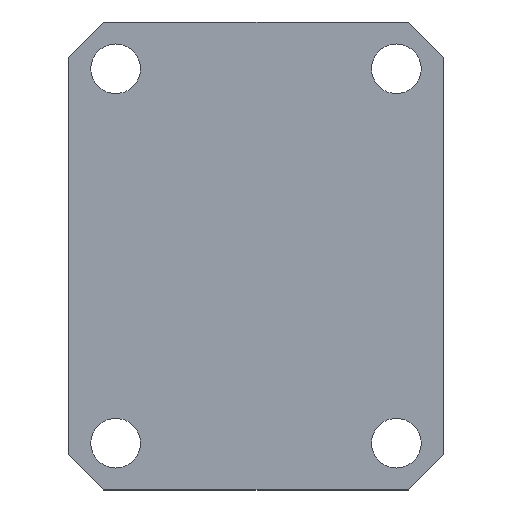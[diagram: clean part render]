
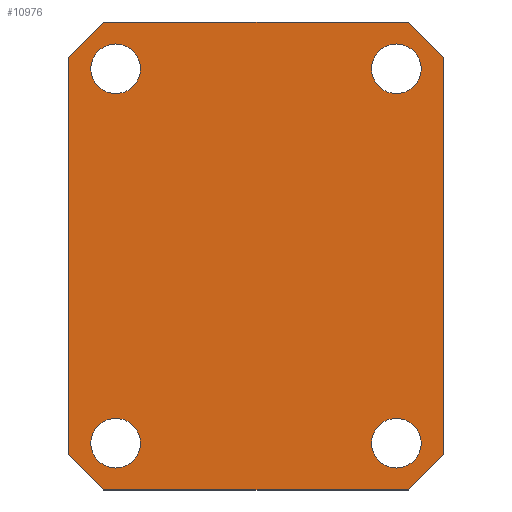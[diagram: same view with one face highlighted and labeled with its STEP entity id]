
A CAD part, front view. The second image highlights one B-rep face of the part: STEP entity #10976.
In plain terms, the highlighted planar face has unit normal (0, -1, 0).
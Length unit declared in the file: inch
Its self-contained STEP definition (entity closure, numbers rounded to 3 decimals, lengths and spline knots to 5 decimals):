
#135 = AXIS2_PLACEMENT_3D ( 'NONE', #6209, #6208, #6207 ) ;
#136 = AXIS2_PLACEMENT_3D ( 'NONE', #6206, #6205, #6204 ) ;
#137 = AXIS2_PLACEMENT_3D ( 'NONE', #6203, #6202, #6201 ) ;
#138 = AXIS2_PLACEMENT_3D ( 'NONE', #6199, #6198, #6197 ) ;
#181 = AXIS2_PLACEMENT_3D ( 'NONE', #13378, #13377, #13376 ) ;
#196 = AXIS2_PLACEMENT_3D ( 'NONE', #13120, #13119, #13118 ) ;
#198 = AXIS2_PLACEMENT_3D ( 'NONE', #13110, #13109, #13108 ) ;
#1120 = EDGE_CURVE ( 'NONE', #12768, #12764, #7611, .T. ) ;
#1124 = EDGE_CURVE ( 'NONE', #12762, #12296, #7617, .T. ) ;
#2129 = CARTESIAN_POINT ( 'NONE',  ( -0.75, 0., 0.8675 ) ) ;
#2131 = CARTESIAN_POINT ( 'NONE',  ( -0.75, 0., -0.8675 ) ) ;
#2531 = CARTESIAN_POINT ( 'NONE',  ( 1., 0., 1.062 ) ) ;
#2533 = CARTESIAN_POINT ( 'NONE',  ( 1., 0., -1.062 ) ) ;
#2548 = CARTESIAN_POINT ( 'NONE',  ( -0.812, 0., -1.25 ) ) ;
#2554 = CARTESIAN_POINT ( 'NONE',  ( 0.812, 0., -1.25 ) ) ;
#2572 = CARTESIAN_POINT ( 'NONE',  ( -1., 0., -1.062 ) ) ;
#2573 = CARTESIAN_POINT ( 'NONE',  ( -1., 0., 1.062 ) ) ;
#2581 = CARTESIAN_POINT ( 'NONE',  ( 0.812, 0., 1.25 ) ) ;
#2585 = CARTESIAN_POINT ( 'NONE',  ( -0.812, 0., 1.25 ) ) ;
#2588 = CARTESIAN_POINT ( 'NONE',  ( 0.75, 0., 1.1325 ) ) ;
#2597 = CARTESIAN_POINT ( 'NONE',  ( -0.75, 0., -1.1325 ) ) ;
#2599 = CARTESIAN_POINT ( 'NONE',  ( 0.75, 0., -0.8675 ) ) ;
#2603 = CARTESIAN_POINT ( 'NONE',  ( 0.75, 0., -1.1325 ) ) ;
#3235 = EDGE_CURVE ( 'NONE', #12696, #12698, #12053, .T. ) ;
#3245 = EDGE_CURVE ( 'NONE', #12719, #12713, #12072, .T. ) ;
#4312 = LINE ( 'NONE', #6212, #4313 ) ;
#4313 = VECTOR ( 'NONE', #6211, 39.37008 ) ;
#4314 = CIRCLE ( 'NONE', #135, 0.1325 ) ;
#4315 = CIRCLE ( 'NONE', #136, 0.1325 ) ;
#4316 = CIRCLE ( 'NONE', #137, 0.1325 ) ;
#4317 = LINE ( 'NONE', #6196, #4319 ) ;
#4318 = CIRCLE ( 'NONE', #138, 0.1325 ) ;
#4319 = VECTOR ( 'NONE', #6195, 39.37008 ) ;
#4320 = LINE ( 'NONE', #6194, #4321 ) ;
#4321 = VECTOR ( 'NONE', #6193, 39.37008 ) ;
#4322 = LINE ( 'NONE', #6192, #4323 ) ;
#4323 = VECTOR ( 'NONE', #6191, 39.37008 ) ;
#4324 = LINE ( 'NONE', #6188, #4325 ) ;
#4325 = VECTOR ( 'NONE', #6187, 39.37008 ) ;
#4460 = LINE ( 'NONE', #5865, #4461 ) ;
#4461 = VECTOR ( 'NONE', #5864, 39.37008 ) ;
#4839 = FACE_BOUND ( 'NONE', #14401, .T. ) ;
#4840 = FACE_BOUND ( 'NONE', #14402, .T. ) ;
#4841 = FACE_BOUND ( 'NONE', #14403, .T. ) ;
#4842 = FACE_BOUND ( 'NONE', #14404, .T. ) ;
#4843 = FACE_OUTER_BOUND ( 'NONE', #14405, .T. ) ;
#4974 = CIRCLE ( 'NONE', #196, 0.1325 ) ;
#4980 = CIRCLE ( 'NONE', #198, 0.1325 ) ;
#5864 = DIRECTION ( 'NONE',  ( 0., 0., 1. ) ) ;
#5865 = CARTESIAN_POINT ( 'NONE',  ( -1., 0., 1.25 ) ) ;
#6187 = DIRECTION ( 'NONE',  ( -0.707, 0., -0.707 ) ) ;
#6188 = CARTESIAN_POINT ( 'NONE',  ( -1.156, 0., 0.906 ) ) ;
#6191 = DIRECTION ( 'NONE',  ( -0.707, 0., 0.707 ) ) ;
#6192 = CARTESIAN_POINT ( 'NONE',  ( 2.156, 0., -0.094 ) ) ;
#6193 = DIRECTION ( 'NONE',  ( 0.707, 0., 0.707 ) ) ;
#6194 = CARTESIAN_POINT ( 'NONE',  ( 0.906, 0., -1.156 ) ) ;
#6195 = DIRECTION ( 'NONE',  ( 0.707, 0., -0.707 ) ) ;
#6196 = CARTESIAN_POINT ( 'NONE',  ( 0.094, 0., -2.156 ) ) ;
#6197 = DIRECTION ( 'NONE',  ( 0., 0., -1. ) ) ;
#6198 = DIRECTION ( 'NONE',  ( 0., 1., 0. ) ) ;
#6199 = CARTESIAN_POINT ( 'NONE',  ( -0.75, 0., 1. ) ) ;
#6201 = DIRECTION ( 'NONE',  ( 0., 0., -1. ) ) ;
#6202 = DIRECTION ( 'NONE',  ( 0., 1., 0. ) ) ;
#6203 = CARTESIAN_POINT ( 'NONE',  ( 0.75, 0., 1. ) ) ;
#6204 = DIRECTION ( 'NONE',  ( 0., 0., -1. ) ) ;
#6205 = DIRECTION ( 'NONE',  ( 0., 1., 0. ) ) ;
#6206 = CARTESIAN_POINT ( 'NONE',  ( -0.75, 0., -1. ) ) ;
#6207 = DIRECTION ( 'NONE',  ( 0., 0., -1. ) ) ;
#6208 = DIRECTION ( 'NONE',  ( 0., 1., 0. ) ) ;
#6209 = CARTESIAN_POINT ( 'NONE',  ( 0.75, 0., -1. ) ) ;
#6211 = DIRECTION ( 'NONE',  ( 1., 0., 0. ) ) ;
#6212 = CARTESIAN_POINT ( 'NONE',  ( -1., 0., 1.25 ) ) ;
#6504 = DIRECTION ( 'NONE',  ( -1., 0., 0. ) ) ;
#6505 = CARTESIAN_POINT ( 'NONE',  ( -1., 0., -1.25 ) ) ;
#6532 = DIRECTION ( 'NONE',  ( 0., 0., -1. ) ) ;
#6533 = CARTESIAN_POINT ( 'NONE',  ( 1., 0., 1.25 ) ) ;
#7260 = EDGE_CURVE ( 'NONE', #12750, #12746, #4312, .T. ) ;
#7261 = EDGE_CURVE ( 'NONE', #12764, #12768, #4314, .T. ) ;
#7262 = EDGE_CURVE ( 'NONE', #12296, #12762, #4315, .T. ) ;
#7263 = EDGE_CURVE ( 'NONE', #12753, #21617, #4316, .T. ) ;
#7264 = EDGE_CURVE ( 'NONE', #21516, #12294, #4318, .T. ) ;
#7265 = EDGE_CURVE ( 'NONE', #12737, #12713, #4317, .T. ) ;
#7266 = EDGE_CURVE ( 'NONE', #12719, #12698, #4320, .T. ) ;
#7267 = EDGE_CURVE ( 'NONE', #12696, #12746, #4322, .T. ) ;
#7268 = EDGE_CURVE ( 'NONE', #12750, #12738, #4324, .T. ) ;
#7352 = EDGE_CURVE ( 'NONE', #12737, #12738, #4460, .T. ) ;
#7611 = CIRCLE ( 'NONE', #8427, 0.1325 ) ;
#7617 = CIRCLE ( 'NONE', #8429, 0.1325 ) ;
#7872 = ORIENTED_EDGE ( 'NONE', *, *, #7261, .T. ) ;
#7873 = ORIENTED_EDGE ( 'NONE', *, *, #1120, .T. ) ;
#7874 = ORIENTED_EDGE ( 'NONE', *, *, #7262, .T. ) ;
#7875 = ORIENTED_EDGE ( 'NONE', *, *, #1124, .T. ) ;
#7876 = ORIENTED_EDGE ( 'NONE', *, *, #7263, .T. ) ;
#7877 = ORIENTED_EDGE ( 'NONE', *, *, #11408, .T. ) ;
#7878 = ORIENTED_EDGE ( 'NONE', *, *, #7264, .T. ) ;
#7879 = ORIENTED_EDGE ( 'NONE', *, *, #11412, .T. ) ;
#7880 = ORIENTED_EDGE ( 'NONE', *, *, #7352, .F. ) ;
#7881 = ORIENTED_EDGE ( 'NONE', *, *, #7265, .T. ) ;
#7882 = ORIENTED_EDGE ( 'NONE', *, *, #3245, .F. ) ;
#7883 = ORIENTED_EDGE ( 'NONE', *, *, #7266, .T. ) ;
#7884 = ORIENTED_EDGE ( 'NONE', *, *, #3235, .F. ) ;
#7885 = ORIENTED_EDGE ( 'NONE', *, *, #7267, .T. ) ;
#7886 = ORIENTED_EDGE ( 'NONE', *, *, #7260, .F. ) ;
#7887 = ORIENTED_EDGE ( 'NONE', *, *, #7268, .T. ) ;
#8427 = AXIS2_PLACEMENT_3D ( 'NONE', #17075, #17073, #17072 ) ;
#8429 = AXIS2_PLACEMENT_3D ( 'NONE', #17061, #17060, #17059 ) ;
#10976 = ADVANCED_FACE ( 'NONE', ( #4839, #4840, #4841, #4842, #4843 ), #13380, .T. ) ;
#11408 = EDGE_CURVE ( 'NONE', #21617, #12753, #4974, .T. ) ;
#11412 = EDGE_CURVE ( 'NONE', #12294, #21516, #4980, .T. ) ;
#11442 = CARTESIAN_POINT ( 'NONE',  ( -0.75, 0., 1.1325 ) ) ;
#11453 = CARTESIAN_POINT ( 'NONE',  ( 0.75, 0., 0.8675 ) ) ;
#12053 = LINE ( 'NONE', #6533, #12054 ) ;
#12054 = VECTOR ( 'NONE', #6532, 39.37008 ) ;
#12072 = LINE ( 'NONE', #6505, #12073 ) ;
#12073 = VECTOR ( 'NONE', #6504, 39.37008 ) ;
#12294 = VERTEX_POINT ( 'NONE', #2129 ) ;
#12296 = VERTEX_POINT ( 'NONE', #2131 ) ;
#12696 = VERTEX_POINT ( 'NONE', #2531 ) ;
#12698 = VERTEX_POINT ( 'NONE', #2533 ) ;
#12713 = VERTEX_POINT ( 'NONE', #2548 ) ;
#12719 = VERTEX_POINT ( 'NONE', #2554 ) ;
#12737 = VERTEX_POINT ( 'NONE', #2572 ) ;
#12738 = VERTEX_POINT ( 'NONE', #2573 ) ;
#12746 = VERTEX_POINT ( 'NONE', #2581 ) ;
#12750 = VERTEX_POINT ( 'NONE', #2585 ) ;
#12753 = VERTEX_POINT ( 'NONE', #2588 ) ;
#12762 = VERTEX_POINT ( 'NONE', #2597 ) ;
#12764 = VERTEX_POINT ( 'NONE', #2599 ) ;
#12768 = VERTEX_POINT ( 'NONE', #2603 ) ;
#13108 = DIRECTION ( 'NONE',  ( 0., 0., -1. ) ) ;
#13109 = DIRECTION ( 'NONE',  ( 0., 1., 0. ) ) ;
#13110 = CARTESIAN_POINT ( 'NONE',  ( -0.75, 0., 1. ) ) ;
#13118 = DIRECTION ( 'NONE',  ( 0., 0., -1. ) ) ;
#13119 = DIRECTION ( 'NONE',  ( 0., 1., 0. ) ) ;
#13120 = CARTESIAN_POINT ( 'NONE',  ( 0.75, 0., 1. ) ) ;
#13376 = DIRECTION ( 'NONE',  ( 0., 0., -1. ) ) ;
#13377 = DIRECTION ( 'NONE',  ( 0., -1., 0. ) ) ;
#13378 = CARTESIAN_POINT ( 'NONE',  ( 1., 0., -1.25 ) ) ;
#13380 = PLANE ( 'NONE',  #181 ) ;
#14401 = EDGE_LOOP ( 'NONE', ( #7872, #7873 ) ) ;
#14402 = EDGE_LOOP ( 'NONE', ( #7874, #7875 ) ) ;
#14403 = EDGE_LOOP ( 'NONE', ( #7876, #7877 ) ) ;
#14404 = EDGE_LOOP ( 'NONE', ( #7878, #7879 ) ) ;
#14405 = EDGE_LOOP ( 'NONE', ( #7880, #7881, #7882, #7883, #7884, #7885, #7886, #7887 ) ) ;
#17059 = DIRECTION ( 'NONE',  ( 0., 0., -1. ) ) ;
#17060 = DIRECTION ( 'NONE',  ( 0., 1., 0. ) ) ;
#17061 = CARTESIAN_POINT ( 'NONE',  ( -0.75, 0., -1. ) ) ;
#17072 = DIRECTION ( 'NONE',  ( 0., 0., -1. ) ) ;
#17073 = DIRECTION ( 'NONE',  ( 0., 1., 0. ) ) ;
#17075 = CARTESIAN_POINT ( 'NONE',  ( 0.75, 0., -1. ) ) ;
#21516 = VERTEX_POINT ( 'NONE', #11442 ) ;
#21617 = VERTEX_POINT ( 'NONE', #11453 ) ;
